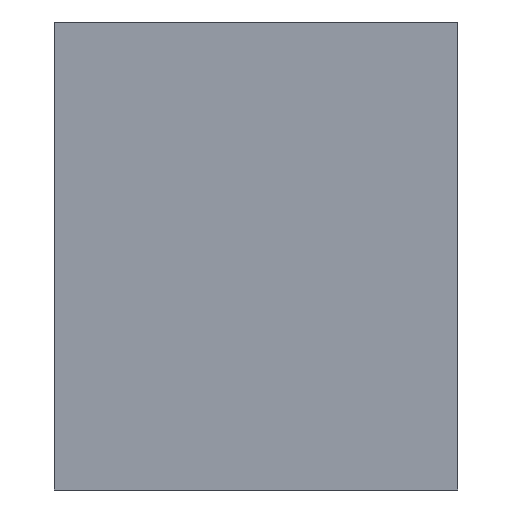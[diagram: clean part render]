
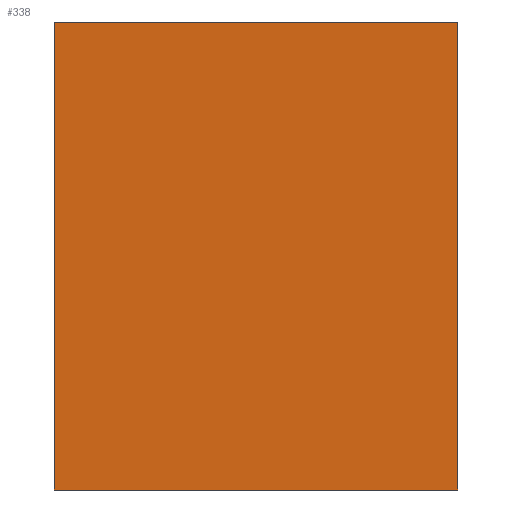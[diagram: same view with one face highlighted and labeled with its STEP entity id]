
A CAD part, left-side view. The second image highlights one B-rep face of the part: STEP entity #338.
In plain terms, the highlighted planar face has unit normal (-0.998, 0, -0.059).
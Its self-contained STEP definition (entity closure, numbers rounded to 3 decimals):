
#24 = VERTEX_POINT('',#25);
#25 = CARTESIAN_POINT('',(343.031,-138.913,
    75.477));
#32 = PLANE('',#33);
#33 = AXIS2_PLACEMENT_3D('',#34,#35,#36);
#34 = CARTESIAN_POINT('',(343.181,-138.913,
    75.486));
#35 = DIRECTION('',(0.,1.,0.));
#36 = DIRECTION('',(-0.059,0.,0.998));
#44 = PLANE('',#45);
#45 = AXIS2_PLACEMENT_3D('',#46,#47,#48);
#46 = CARTESIAN_POINT('',(343.181,-94.913,
    75.486));
#47 = DIRECTION('',(-0.059,0.,0.998));
#48 = DIRECTION('',(0.,-1.,0.));
#56 = EDGE_CURVE('',#24,#57,#59,.T.);
#57 = VERTEX_POINT('',#58);
#58 = CARTESIAN_POINT('',(340.001,-138.913,
    126.485));
#59 = SURFACE_CURVE('',#60,(#64,#71),.PCURVE_S1.);
#60 = LINE('',#61,#62);
#61 = CARTESIAN_POINT('',(343.031,-138.913,
    75.477));
#62 = VECTOR('',#63,1.);
#63 = DIRECTION('',(-0.059,0.,0.998));
#64 = PCURVE('',#32,#65);
#65 = DEFINITIONAL_REPRESENTATION('',(#66),#70);
#66 = LINE('',#67,#68);
#67 = CARTESIAN_POINT('',(0.,-0.15));
#68 = VECTOR('',#69,1.);
#69 = DIRECTION('',(1.,0.));
#70 = ( GEOMETRIC_REPRESENTATION_CONTEXT(2) 
PARAMETRIC_REPRESENTATION_CONTEXT() REPRESENTATION_CONTEXT('2D SPACE',''
  ) );
#71 = PCURVE('',#72,#77);
#72 = PLANE('',#73);
#73 = AXIS2_PLACEMENT_3D('',#74,#75,#76);
#74 = CARTESIAN_POINT('',(341.516,-116.913,
    100.981));
#75 = DIRECTION('',(-0.998,-0.,-0.059));
#76 = DIRECTION('',(0.059,0.,-0.998));
#77 = DEFINITIONAL_REPRESENTATION('',(#78),#82);
#78 = LINE('',#79,#80);
#79 = CARTESIAN_POINT('',(25.549,22.));
#80 = VECTOR('',#81,1.);
#81 = DIRECTION('',(-1.,0.));
#82 = ( GEOMETRIC_REPRESENTATION_CONTEXT(2) 
PARAMETRIC_REPRESENTATION_CONTEXT() REPRESENTATION_CONTEXT('2D SPACE',''
  ) );
#100 = PLANE('',#101);
#101 = AXIS2_PLACEMENT_3D('',#102,#103,#104);
#102 = CARTESIAN_POINT('',(340.151,-138.913,
    126.494));
#103 = DIRECTION('',(0.059,0.,-0.998));
#104 = DIRECTION('',(0.,1.,0.));
#142 = EDGE_CURVE('',#57,#143,#145,.T.);
#143 = VERTEX_POINT('',#144);
#144 = CARTESIAN_POINT('',(340.001,-94.913,
    126.485));
#145 = SURFACE_CURVE('',#146,(#150,#157),.PCURVE_S1.);
#146 = LINE('',#147,#148);
#147 = CARTESIAN_POINT('',(340.001,-138.913,
    126.485));
#148 = VECTOR('',#149,1.);
#149 = DIRECTION('',(0.,1.,0.));
#150 = PCURVE('',#100,#151);
#151 = DEFINITIONAL_REPRESENTATION('',(#152),#156);
#152 = LINE('',#153,#154);
#153 = CARTESIAN_POINT('',(0.,-0.15));
#154 = VECTOR('',#155,1.);
#155 = DIRECTION('',(1.,0.));
#156 = ( GEOMETRIC_REPRESENTATION_CONTEXT(2) 
PARAMETRIC_REPRESENTATION_CONTEXT() REPRESENTATION_CONTEXT('2D SPACE',''
  ) );
#157 = PCURVE('',#72,#158);
#158 = DEFINITIONAL_REPRESENTATION('',(#159),#163);
#159 = LINE('',#160,#161);
#160 = CARTESIAN_POINT('',(-25.549,22.));
#161 = VECTOR('',#162,1.);
#162 = DIRECTION('',(0.,-1.));
#163 = ( GEOMETRIC_REPRESENTATION_CONTEXT(2) 
PARAMETRIC_REPRESENTATION_CONTEXT() REPRESENTATION_CONTEXT('2D SPACE',''
  ) );
#181 = PLANE('',#182);
#182 = AXIS2_PLACEMENT_3D('',#183,#184,#185);
#183 = CARTESIAN_POINT('',(340.151,-94.913,
    126.494));
#184 = DIRECTION('',(0.,-1.,-0.));
#185 = DIRECTION('',(0.059,0.,-0.998));
#218 = EDGE_CURVE('',#143,#219,#221,.T.);
#219 = VERTEX_POINT('',#220);
#220 = CARTESIAN_POINT('',(343.031,-94.913,
    75.477));
#221 = SURFACE_CURVE('',#222,(#226,#233),.PCURVE_S1.);
#222 = LINE('',#223,#224);
#223 = CARTESIAN_POINT('',(340.001,-94.913,
    126.485));
#224 = VECTOR('',#225,1.);
#225 = DIRECTION('',(0.059,0.,-0.998));
#226 = PCURVE('',#181,#227);
#227 = DEFINITIONAL_REPRESENTATION('',(#228),#232);
#228 = LINE('',#229,#230);
#229 = CARTESIAN_POINT('',(0.,-0.15));
#230 = VECTOR('',#231,1.);
#231 = DIRECTION('',(1.,0.));
#232 = ( GEOMETRIC_REPRESENTATION_CONTEXT(2) 
PARAMETRIC_REPRESENTATION_CONTEXT() REPRESENTATION_CONTEXT('2D SPACE',''
  ) );
#233 = PCURVE('',#72,#234);
#234 = DEFINITIONAL_REPRESENTATION('',(#235),#239);
#235 = LINE('',#236,#237);
#236 = CARTESIAN_POINT('',(-25.549,-22.));
#237 = VECTOR('',#238,1.);
#238 = DIRECTION('',(1.,0.));
#239 = ( GEOMETRIC_REPRESENTATION_CONTEXT(2) 
PARAMETRIC_REPRESENTATION_CONTEXT() REPRESENTATION_CONTEXT('2D SPACE',''
  ) );
#289 = EDGE_CURVE('',#219,#24,#290,.T.);
#290 = SURFACE_CURVE('',#291,(#295,#302),.PCURVE_S1.);
#291 = LINE('',#292,#293);
#292 = CARTESIAN_POINT('',(343.031,-94.913,
    75.477));
#293 = VECTOR('',#294,1.);
#294 = DIRECTION('',(0.,-1.,0.));
#295 = PCURVE('',#44,#296);
#296 = DEFINITIONAL_REPRESENTATION('',(#297),#301);
#297 = LINE('',#298,#299);
#298 = CARTESIAN_POINT('',(-0.,-0.15));
#299 = VECTOR('',#300,1.);
#300 = DIRECTION('',(1.,0.));
#301 = ( GEOMETRIC_REPRESENTATION_CONTEXT(2) 
PARAMETRIC_REPRESENTATION_CONTEXT() REPRESENTATION_CONTEXT('2D SPACE',''
  ) );
#302 = PCURVE('',#72,#303);
#303 = DEFINITIONAL_REPRESENTATION('',(#304),#308);
#304 = LINE('',#305,#306);
#305 = CARTESIAN_POINT('',(25.549,-22.));
#306 = VECTOR('',#307,1.);
#307 = DIRECTION('',(0.,1.));
#308 = ( GEOMETRIC_REPRESENTATION_CONTEXT(2) 
PARAMETRIC_REPRESENTATION_CONTEXT() REPRESENTATION_CONTEXT('2D SPACE',''
  ) );
#338 = ADVANCED_FACE('',(#339),#72,.T.);
#339 = FACE_BOUND('',#340,.T.);
#340 = EDGE_LOOP('',(#341,#342,#343,#344));
#341 = ORIENTED_EDGE('',*,*,#56,.T.);
#342 = ORIENTED_EDGE('',*,*,#142,.T.);
#343 = ORIENTED_EDGE('',*,*,#218,.T.);
#344 = ORIENTED_EDGE('',*,*,#289,.T.);
